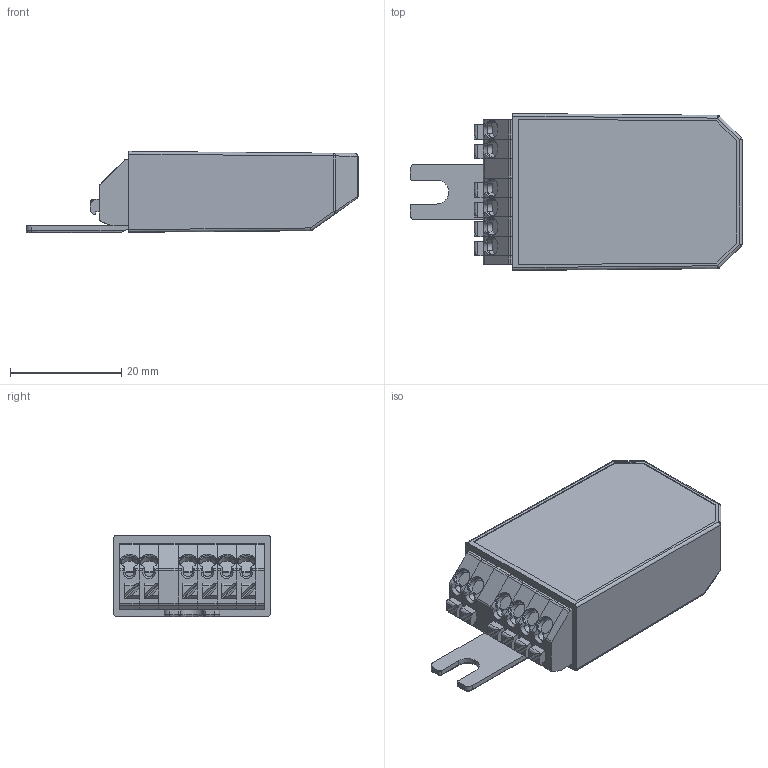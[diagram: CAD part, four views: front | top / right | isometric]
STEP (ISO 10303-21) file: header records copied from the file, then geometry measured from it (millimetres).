
FILE_DESCRIPTION((''),'2;1');
FILE_NAME('15013988Z_DMEC_59-7X28-2X14-6','2020-07-14T11:02:37',('Emanuel.Wild'),(''),'CREO PARAMETRIC BY PTC INC, 2019164','CREO PARAMETRIC BY PTC INC, 2019164','');
FILE_SCHEMA(('CONFIG_CONTROL_DESIGN'));
Length unit declared in the file: millimetre
Products named in the file (1): 15013988Z_DMEC_59-7X28-2X14-6
Bounding box: 59.7 x 28.2 x 14.6 mm (x, y, z)
Volume: 16471.6 mm3; surface area: 6813.4 mm2
Topology: 1 solids, 3 shells, 358 faces, 896 edges, 535 vertices
Faces by surface type: bspline 186, revolution 64, plane 53, cylinder 38, sphere 14, torus 3
Entity records: 14879 total; most frequent: CARTESIAN_POINT 7112, ORIENTED_EDGE 1743, DIRECTION 1219, EDGE_CURVE 884, VECTOR 607, LINE 607, VERTEX_POINT 535, EDGE_LOOP 362
